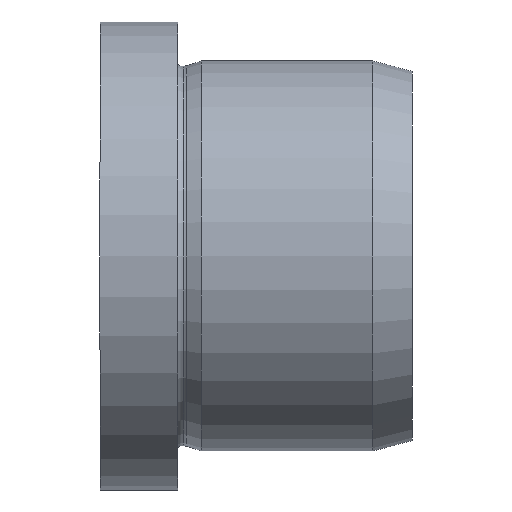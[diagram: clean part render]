
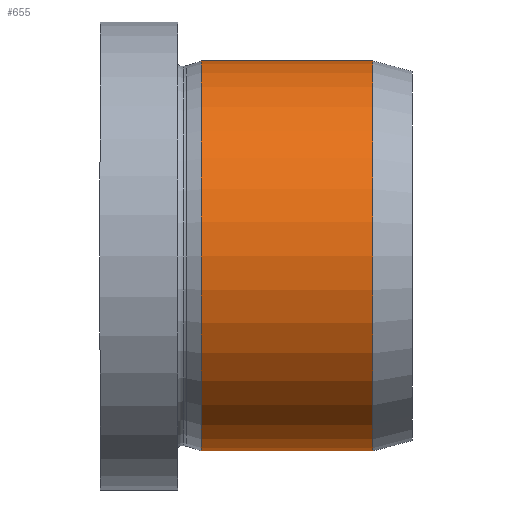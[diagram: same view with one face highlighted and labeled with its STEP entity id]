
A CAD part, left-side view. The second image highlights one B-rep face of the part: STEP entity #655.
In plain terms, the highlighted cylindrical face has radius 7.5 mm (diameter 15 mm), a partial arc.
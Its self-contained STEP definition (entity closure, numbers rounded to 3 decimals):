
#14 = CIRCLE ( 'NONE', #431, 7.5 ) ;
#23 = DIRECTION ( 'NONE',  ( 0., -1., 0. ) ) ;
#33 = CARTESIAN_POINT ( 'NONE',  ( 0., 0., -7.5 ) ) ;
#74 = DIRECTION ( 'NONE',  ( 0., -1., 0. ) ) ;
#118 = ORIENTED_EDGE ( 'NONE', *, *, #416, .T. ) ;
#140 = CARTESIAN_POINT ( 'NONE',  ( 0., 1.5, 0. ) ) ;
#150 = CIRCLE ( 'NONE', #541, 7.5 ) ;
#188 = DIRECTION ( 'NONE',  ( 0., 0., -1. ) ) ;
#195 = VECTOR ( 'NONE', #441, 1000. ) ;
#198 = CARTESIAN_POINT ( 'NONE',  ( 0., 1.5, 7.5 ) ) ;
#219 = EDGE_CURVE ( 'NONE', #614, #362, #626, .T. ) ;
#232 = DIRECTION ( 'NONE',  ( 0., 0., -1. ) ) ;
#246 = CYLINDRICAL_SURFACE ( 'NONE', #509, 7.5 ) ;
#247 = DIRECTION ( 'NONE',  ( 0., -1., 0. ) ) ;
#269 = ORIENTED_EDGE ( 'NONE', *, *, #602, .F. ) ;
#288 = FACE_OUTER_BOUND ( 'NONE', #330, .T. ) ;
#289 = LINE ( 'NONE', #33, #195 ) ;
#311 = ORIENTED_EDGE ( 'NONE', *, *, #329, .T. ) ;
#315 = ORIENTED_EDGE ( 'NONE', *, *, #219, .F. ) ;
#329 = EDGE_CURVE ( 'NONE', #614, #612, #150, .T. ) ;
#330 = EDGE_LOOP ( 'NONE', ( #315, #311, #118, #269 ) ) ;
#340 = DIRECTION ( 'NONE',  ( 0., 0., -1. ) ) ;
#342 = CARTESIAN_POINT ( 'NONE',  ( 0., 8.104, 7.5 ) ) ;
#362 = VERTEX_POINT ( 'NONE', #198 ) ;
#363 = VERTEX_POINT ( 'NONE', #534 ) ;
#394 = CARTESIAN_POINT ( 'NONE',  ( 0., 8.104, -7.5 ) ) ;
#416 = EDGE_CURVE ( 'NONE', #612, #363, #289, .T. ) ;
#420 = VECTOR ( 'NONE', #74, 1000. ) ;
#425 = CARTESIAN_POINT ( 'NONE',  ( 0., 0., 7.5 ) ) ;
#431 = AXIS2_PLACEMENT_3D ( 'NONE', #140, #587, #232 ) ;
#441 = DIRECTION ( 'NONE',  ( 0., -1., 0. ) ) ;
#480 = CARTESIAN_POINT ( 'NONE',  ( 0., 0., 0. ) ) ;
#509 = AXIS2_PLACEMENT_3D ( 'NONE', #480, #23, #188 ) ;
#522 = CARTESIAN_POINT ( 'NONE',  ( 0., 8.104, 0. ) ) ;
#534 = CARTESIAN_POINT ( 'NONE',  ( 0., 1.5, -7.5 ) ) ;
#541 = AXIS2_PLACEMENT_3D ( 'NONE', #522, #247, #340 ) ;
#587 = DIRECTION ( 'NONE',  ( 0., -1., 0. ) ) ;
#602 = EDGE_CURVE ( 'NONE', #362, #363, #14, .T. ) ;
#612 = VERTEX_POINT ( 'NONE', #394 ) ;
#614 = VERTEX_POINT ( 'NONE', #342 ) ;
#626 = LINE ( 'NONE', #425, #420 ) ;
#655 = ADVANCED_FACE ( 'NONE', ( #288 ), #246, .T. ) ;
